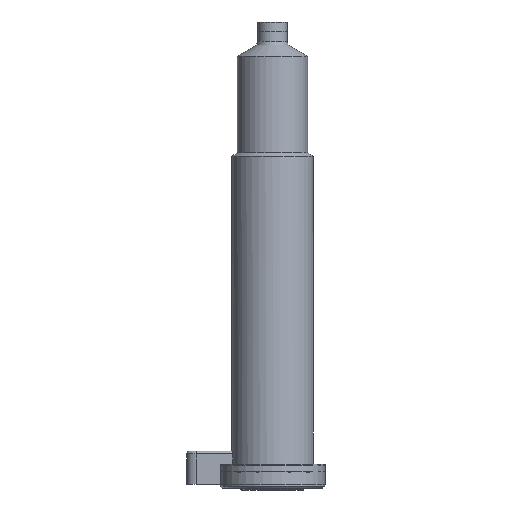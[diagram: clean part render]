
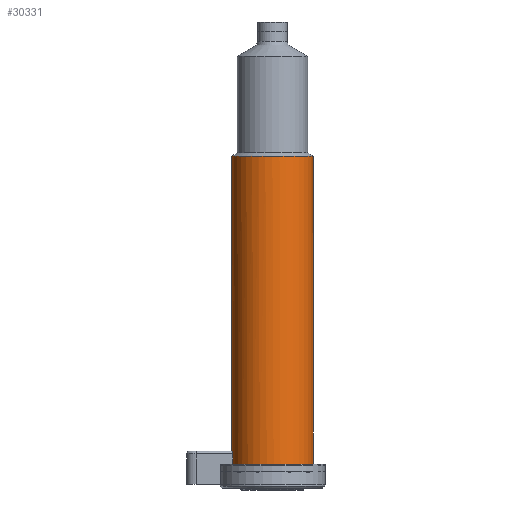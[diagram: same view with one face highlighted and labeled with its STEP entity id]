
A CAD part, front view. The second image highlights one B-rep face of the part: STEP entity #30331.
In plain terms, the highlighted cylindrical face has radius 44 mm (diameter 88 mm), a partial arc.
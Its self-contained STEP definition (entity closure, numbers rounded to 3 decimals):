
#176 = ORIENTED_EDGE ( 'NONE', *, *, #24222, .F. ) ;
#177 = ORIENTED_EDGE ( 'NONE', *, *, #24268, .T. ) ;
#178 = ORIENTED_EDGE ( 'NONE', *, *, #24227, .T. ) ;
#179 = ORIENTED_EDGE ( 'NONE', *, *, #24267, .F. ) ;
#180 = ORIENTED_EDGE ( 'NONE', *, *, #24265, .T. ) ;
#182 = ORIENTED_EDGE ( 'NONE', *, *, #24259, .F. ) ;
#183 = ORIENTED_EDGE ( 'NONE', *, *, #24257, .F. ) ;
#6278 = CYLINDRICAL_SURFACE ( 'NONE', #17591, 44. ) ;
#6304 = FACE_OUTER_BOUND ( 'NONE', #31014, .T. ) ;
#11283 = DIRECTION ( 'NONE',  ( -1., 0., 0. ) ) ;
#11298 = CARTESIAN_POINT ( 'NONE',  ( 0., 0., 0. ) ) ;
#11312 = DIRECTION ( 'NONE',  ( 0., 0., -1. ) ) ;
#17591 = AXIS2_PLACEMENT_3D ( 'NONE', #11298, #11312, #11283 ) ;
#20715 = DIRECTION ( 'NONE',  ( -1., 0., 0. ) ) ;
#20716 = DIRECTION ( 'NONE',  ( 0., 0., -1. ) ) ;
#20717 = CARTESIAN_POINT ( 'NONE',  ( 0., 0., 361. ) ) ;
#20718 = DIRECTION ( 'NONE',  ( 0., 0., 1. ) ) ;
#20719 = CARTESIAN_POINT ( 'NONE',  ( -42.849, -10., 0. ) ) ;
#20722 = DIRECTION ( 'NONE',  ( -1., 0., 0. ) ) ;
#20723 = DIRECTION ( 'NONE',  ( 0., 0., 1. ) ) ;
#20724 = CARTESIAN_POINT ( 'NONE',  ( 0., 0., 28. ) ) ;
#20739 = DIRECTION ( 'NONE',  ( 1., 0., 0. ) ) ;
#20740 = DIRECTION ( 'NONE',  ( 0., 0., -1. ) ) ;
#20741 = CARTESIAN_POINT ( 'NONE',  ( 0., 0., 42. ) ) ;
#20744 = CARTESIAN_POINT ( 'NONE',  ( -43.44, -7., 42. ) ) ;
#20745 = CARTESIAN_POINT ( 'NONE',  ( -43.408, -7.197, 42. ) ) ;
#20746 = CARTESIAN_POINT ( 'NONE',  ( -43.375, -7.392, 41.981 ) ) ;
#20747 = CARTESIAN_POINT ( 'NONE',  ( -43.308, -7.773, 41.905 ) ) ;
#20748 = CARTESIAN_POINT ( 'NONE',  ( -43.274, -7.962, 41.848 ) ) ;
#20749 = CARTESIAN_POINT ( 'NONE',  ( -43.206, -8.324, 41.699 ) ) ;
#20750 = CARTESIAN_POINT ( 'NONE',  ( -43.172, -8.496, 41.608 ) ) ;
#20751 = CARTESIAN_POINT ( 'NONE',  ( -43.107, -8.821, 41.392 ) ) ;
#20752 = CARTESIAN_POINT ( 'NONE',  ( -43.075, -8.975, 41.266 ) ) ;
#20753 = CARTESIAN_POINT ( 'NONE',  ( -43.016, -9.253, 40.991 ) ) ;
#20754 = CARTESIAN_POINT ( 'NONE',  ( -42.989, -9.378, 40.84 ) ) ;
#20755 = CARTESIAN_POINT ( 'NONE',  ( -42.94, -9.598, 40.513 ) ) ;
#20756 = CARTESIAN_POINT ( 'NONE',  ( -42.919, -9.693, 40.337 ) ) ;
#20757 = CARTESIAN_POINT ( 'NONE',  ( -42.885, -9.844, 39.975 ) ) ;
#20758 = CARTESIAN_POINT ( 'NONE',  ( -42.871, -9.903, 39.784 ) ) ;
#20759 = CARTESIAN_POINT ( 'NONE',  ( -42.853, -9.981, 39.394 ) ) ;
#20760 = CARTESIAN_POINT ( 'NONE',  ( -42.849, -10., 39.198 ) ) ;
#20763 = CARTESIAN_POINT ( 'NONE',  ( -42.849, -10., 39. ) ) ;
#20852 = DIRECTION ( 'NONE',  ( 0., 0., -1. ) ) ;
#20853 = CARTESIAN_POINT ( 'NONE',  ( -44., 0., 0. ) ) ;
#20883 = DIRECTION ( 'NONE',  ( 0., 0., -1. ) ) ;
#20884 = CARTESIAN_POINT ( 'NONE',  ( 44., 0., 0. ) ) ;
#21586 = CARTESIAN_POINT ( 'NONE',  ( 44., 0., 361. ) ) ;
#21650 = CARTESIAN_POINT ( 'NONE',  ( -42.849, -10., 39. ) ) ;
#22497 = CARTESIAN_POINT ( 'NONE',  ( -44., 0., 361. ) ) ;
#24222 = EDGE_CURVE ( 'NONE', #34711, #36394, #31361, .T. ) ;
#24227 = EDGE_CURVE ( 'NONE', #34862, #36308, #31356, .T. ) ;
#24257 = EDGE_CURVE ( 'NONE', #34784, #35350, #26531, .T. ) ;
#24259 = EDGE_CURVE ( 'NONE', #35350, #36308, #31305, .T. ) ;
#24265 = EDGE_CURVE ( 'NONE', #34960, #36394, #31290, .T. ) ;
#24267 = EDGE_CURVE ( 'NONE', #34960, #34784, #31285, .T. ) ;
#24268 = EDGE_CURVE ( 'NONE', #34711, #34862, #31276, .T. ) ;
#24902 = AXIS2_PLACEMENT_3D ( 'NONE', #20717, #20716, #20715 ) ;
#24903 = AXIS2_PLACEMENT_3D ( 'NONE', #20724, #20723, #20722 ) ;
#24904 = AXIS2_PLACEMENT_3D ( 'NONE', #20741, #20740, #20739 ) ;
#26531 = B_SPLINE_CURVE_WITH_KNOTS ( 'NONE', 3,
 ( #20763, #20760, #20759, #20758, #20757, #20756, #20755, #20754, #20753, #20752, #20751, #20750, #20749, #20748, #20747, #20746, #20745, #20744 ),
 .UNSPECIFIED., .F., .F.,
 ( 4, 2, 2, 2, 2, 2, 2, 2, 4 ),
 ( 0.009, 0.01, 0.011, 0.011, 0.012, 0.012, 0.013, 0.014, 0.014 ),
 .UNSPECIFIED. ) ;
#30331 = ADVANCED_FACE ( 'NONE', ( #6304 ), #6278, .T. ) ;
#31014 = EDGE_LOOP ( 'NONE', ( #176, #177, #178, #182, #183, #179, #180 ) ) ;
#31276 = CIRCLE ( 'NONE', #24902, 44. ) ;
#31283 = VECTOR ( 'NONE', #20718, 1000. ) ;
#31285 = LINE ( 'NONE', #20719, #31283 ) ;
#31290 = CIRCLE ( 'NONE', #24903, 44. ) ;
#31305 = CIRCLE ( 'NONE', #24904, 44. ) ;
#31354 = VECTOR ( 'NONE', #20852, 1000. ) ;
#31356 = LINE ( 'NONE', #20853, #31354 ) ;
#31360 = VECTOR ( 'NONE', #20883, 1000. ) ;
#31361 = LINE ( 'NONE', #20884, #31360 ) ;
#34711 = VERTEX_POINT ( 'NONE', #21586 ) ;
#34784 = VERTEX_POINT ( 'NONE', #21650 ) ;
#34862 = VERTEX_POINT ( 'NONE', #22497 ) ;
#34960 = VERTEX_POINT ( 'NONE', #35493 ) ;
#35174 = CARTESIAN_POINT ( 'NONE',  ( -43.44, -7., 42. ) ) ;
#35350 = VERTEX_POINT ( 'NONE', #35174 ) ;
#35493 = CARTESIAN_POINT ( 'NONE',  ( -42.849, -10., 28. ) ) ;
#35551 = CARTESIAN_POINT ( 'NONE',  ( -44., 0., 42. ) ) ;
#35676 = CARTESIAN_POINT ( 'NONE',  ( 44., 0., 28. ) ) ;
#36308 = VERTEX_POINT ( 'NONE', #35551 ) ;
#36394 = VERTEX_POINT ( 'NONE', #35676 ) ;
